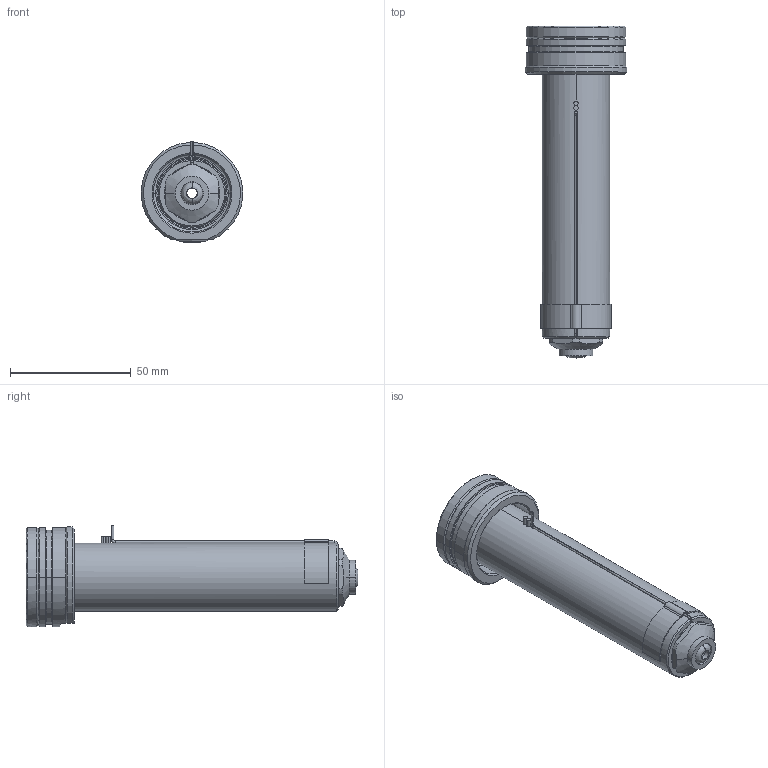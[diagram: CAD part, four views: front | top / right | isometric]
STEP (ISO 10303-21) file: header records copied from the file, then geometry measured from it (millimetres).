
FILE_DESCRIPTION((''),'2;1');
FILE_NAME('EO10_VG-BL_WR_120_SW','2024-02-19T13:11:51',('sundharh'),(''),'CREO PARAMETRIC BY PTC INC, 2023154','CREO PARAMETRIC BY PTC INC, 2023154','');
FILE_SCHEMA(('CONFIG_CONTROL_DESIGN'));
Length unit declared in the file: millimetre
Products named in the file (1): EO10_VG-BL_WR_120_SW
Bounding box: 41.85 x 137.2 x 42.02 mm (x, y, z)
Volume: 82590.1 mm3; surface area: 23274.2 mm2
Topology: 1 solids, 1 shells, 188 faces, 469 edges, 286 vertices
Faces by surface type: cylinder 71, plane 46, cone 35, torus 23, bspline 11, sphere 2
Entity records: 6499 total; most frequent: CARTESIAN_POINT 1934, DIRECTION 1005, ORIENTED_EDGE 934, EDGE_CURVE 467, AXIS2_PLACEMENT_3D 419, VERTEX_POINT 286, CIRCLE 242, EDGE_LOOP 203
